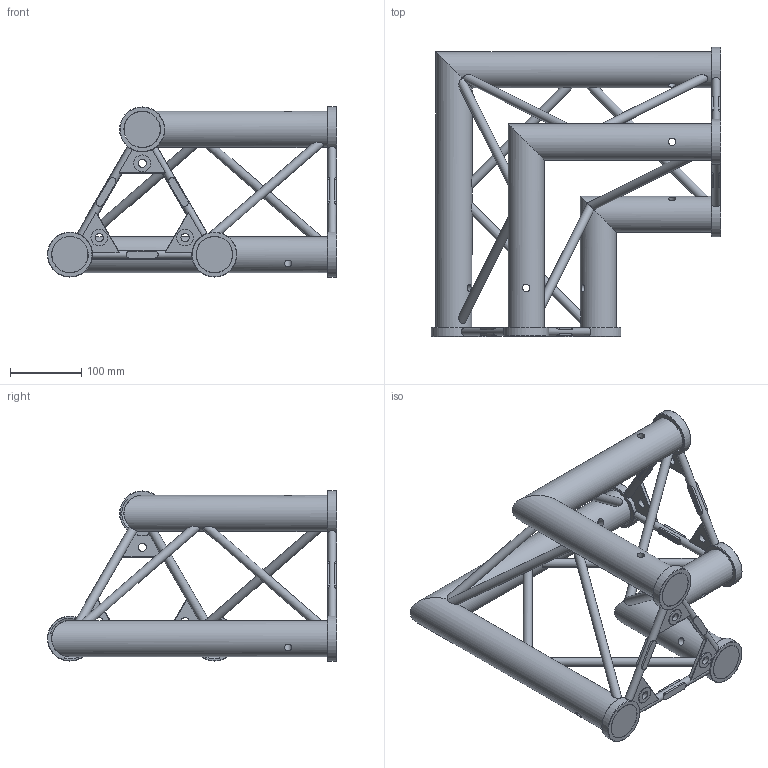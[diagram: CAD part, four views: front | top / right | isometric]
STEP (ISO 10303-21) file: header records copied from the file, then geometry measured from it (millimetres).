
FILE_DESCRIPTION(/* description */ (''),/* implementation_level */ '2;1');
FILE_NAME(/* name */ 'C:\Users\stephan\Desktop\A03\Corners\112030016.stp',/* time_stamp */ '2016-02-12T14:28:12+01:00',/* author */ ('Stephan'),/* organization */ (''),/* preprocessor_version */ 'ST-DEVELOPER v15.6',/* originating_system */ 'Autodesk Inventor 2015',/* authorisation */ '');
FILE_SCHEMA (('AUTOMOTIVE_DESIGN { 1 0 10303 214 3 1 1 }'));
Length unit declared in the file: centimetre
Products named in the file (1): 260000450
Bounding box: 406.25 x 406.25 x 239.1 mm (x, y, z)
Volume: 3753083.6 mm3; surface area: 442333.1 mm2
Topology: 3 solids, 3 shells, 1949 faces, 5244 edges, 3489 vertices
Faces by surface type: plane 956, bspline 856, cylinder 113, cone 12, torus 12
Full cylindrical faces by diameter (mm): 10.5 x6, 11.5 x12, 12.7 x9, 23.5 x6, 50.8 x6, 51.3 x6, 63.3 x6
Entity records: 70080 total; most frequent: CARTESIAN_POINT 25663, ORIENTED_EDGE 10246, DIRECTION 5648, EDGE_CURVE 5123, VERTEX_POINT 3441, LINE 3094, VECTOR 3094, EDGE_LOOP 2264
